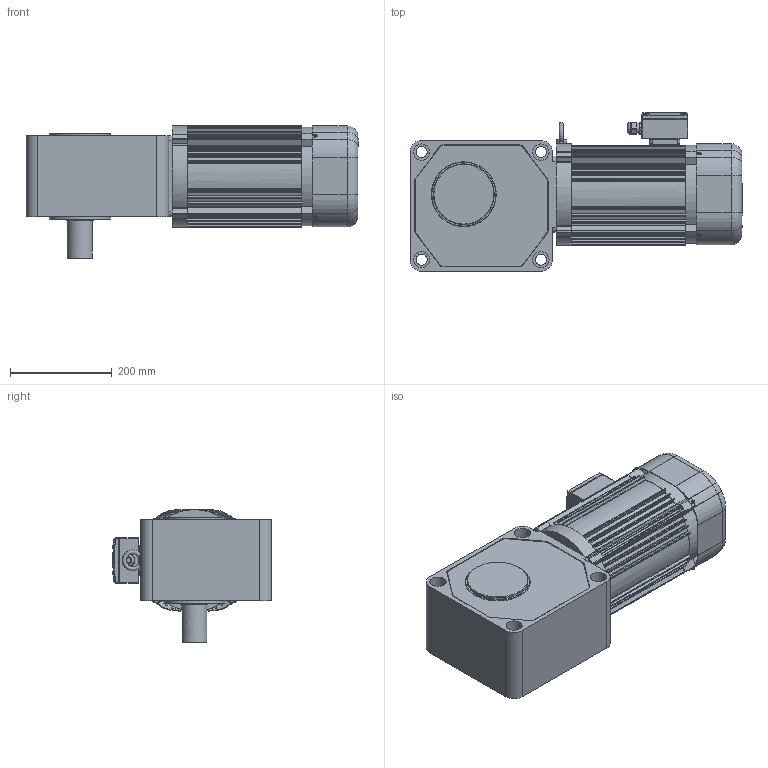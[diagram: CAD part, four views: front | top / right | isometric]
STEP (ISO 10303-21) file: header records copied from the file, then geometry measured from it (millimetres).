
FILE_DESCRIPTION(/* description */ (''),/* implementation_level */ '2;1');
FILE_NAME(/* name */ 'Z:\동력 3D 파일\PCS50L_2.2kW_Brake_3D.stp',/* time_stamp */ '2021-11-09T17:38:23+09:00',/* author */ ('jaebok'),/* organization */ (''),/* preprocessor_version */ 'ST-DEVELOPER v18.1',/* originating_system */ 'Autodesk Inventor 2022',/* authorisation */ '');
FILE_SCHEMA (('AUTOMOTIVE_DESIGN { 1 0 10303 214 3 1 1 }'));
Length unit declared in the file: millimetre
Products named in the file (1): 부품81
Bounding box: 654.1 x 313 x 262.4 mm (x, y, z)
Volume: 15368112.6 mm3; surface area: 1146967.8 mm2
Topology: 1 solids, 25 shells, 1459 faces, 3906 edges, 2542 vertices
Faces by surface type: plane 718, cylinder 629, torus 51, cone 47, bspline 10, sphere 4
Full cylindrical faces by diameter (mm): 3.242 x4, 3.25 x1, 3.6 x4, 4 x21, 5 x13, 6 x5, 6.647 x5, 7 x8, 8 x1, 8.8 x1, 9 x4, 10 x3, 12.5 x1, 15 x1, 20 x2, 21 x1, 22 x4, 23.6 x1, 25 x2, 32 x4, 36 x1, 50 x1, 120 x2, 175 x1, 176 x1, 180 x2, 181 x1, 182 x1, 185.4 x2, 188 x4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
Entity records: 48663 total; most frequent: CARTESIAN_POINT 9769, DIRECTION 8155, ORIENTED_EDGE 7784, EDGE_CURVE 3892, AXIS2_PLACEMENT_3D 3014, VERTEX_POINT 2542, LINE 2127, VECTOR 2127
